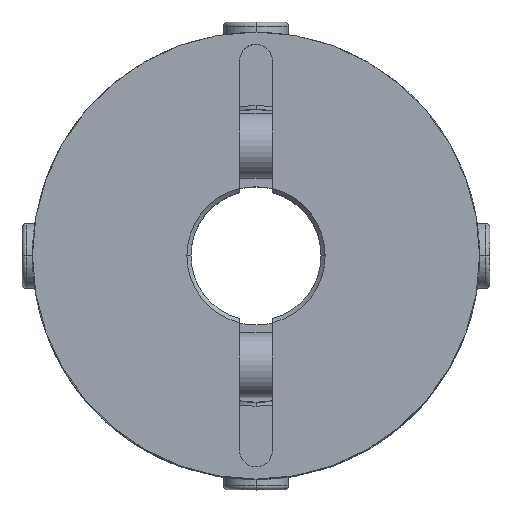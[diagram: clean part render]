
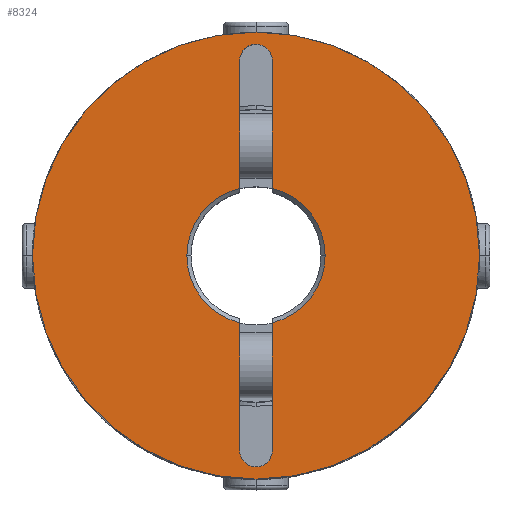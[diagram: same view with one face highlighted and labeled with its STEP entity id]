
A CAD part, top view. The second image highlights one B-rep face of the part: STEP entity #8324.
In plain terms, the highlighted planar face has unit normal (0, 0, 1).
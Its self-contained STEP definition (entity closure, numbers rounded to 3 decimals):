
#632=CARTESIAN_POINT('',(8.5,0.,29.0));
#633=VERTEX_POINT('',#632);
#649=CARTESIAN_POINT('',(2.,-8.261,29.0));
#650=VERTEX_POINT('',#649);
#664=CARTESIAN_POINT('',(0.,0.0,29.0));
#665=DIRECTION('',(0.0,0.0,1.0));
#666=DIRECTION('',(-1.0,0.0,0.0));
#667=AXIS2_PLACEMENT_3D('',#664,#665,#666);
#668=CIRCLE('',#667,8.5);
#669=EDGE_CURVE('',#650,#633,#668,.T.);
#831=CARTESIAN_POINT('',(-8.5,0.,29.0));
#832=VERTEX_POINT('',#831);
#839=CARTESIAN_POINT('',(-2.,-8.261,29.0));
#840=VERTEX_POINT('',#839);
#841=CARTESIAN_POINT('',(0.,0.0,29.0));
#842=DIRECTION('',(0.0,0.0,1.0));
#843=DIRECTION('',(-1.0,0.0,0.0));
#844=AXIS2_PLACEMENT_3D('',#841,#842,#843);
#845=CIRCLE('',#844,8.5);
#846=EDGE_CURVE('',#832,#840,#845,.T.);
#872=CARTESIAN_POINT('',(-1.414,25.414,29.0));
#873=VERTEX_POINT('',#872);
#889=CARTESIAN_POINT('',(2.,24.,29.0));
#890=VERTEX_POINT('',#889);
#897=CARTESIAN_POINT('',(0.,24.,29.0));
#898=DIRECTION('',(0.0,0.0,1.));
#899=DIRECTION('',(0.707,0.707,0.0));
#900=AXIS2_PLACEMENT_3D('',#897,#898,#899);
#901=CIRCLE('',#900,2.);
#902=EDGE_CURVE('',#890,#873,#901,.T.);
#914=CARTESIAN_POINT('',(1.414,-25.414,29.0));
#915=VERTEX_POINT('',#914);
#931=CARTESIAN_POINT('',(-2.,-24.,29.0));
#932=VERTEX_POINT('',#931);
#939=CARTESIAN_POINT('',(0.,-24.,29.0));
#940=DIRECTION('',(0.0,0.0,1.0));
#941=DIRECTION('',(-0.707,-0.707,0.0));
#942=AXIS2_PLACEMENT_3D('',#939,#940,#941);
#943=CIRCLE('',#942,2.0);
#944=EDGE_CURVE('',#932,#915,#943,.T.);
#1499=CARTESIAN_POINT('',(-27.5,0.,29.0));
#1500=VERTEX_POINT('',#1499);
#1507=CARTESIAN_POINT('',(27.5,0.0,29.0));
#1508=VERTEX_POINT('',#1507);
#1509=CARTESIAN_POINT('',(0.,0.0,29.0));
#1510=DIRECTION('',(0.0,0.0,-1.0));
#1511=DIRECTION('',(1.0,0.0,0.0));
#1512=AXIS2_PLACEMENT_3D('',#1509,#1510,#1511);
#1513=CIRCLE('',#1512,27.5);
#1514=EDGE_CURVE('',#1500,#1508,#1513,.T.);
#7525=CARTESIAN_POINT('',(0.,0.0,29.0));
#7526=DIRECTION('',(0.0,0.0,-1.0));
#7527=DIRECTION('',(1.0,0.0,0.0));
#7528=AXIS2_PLACEMENT_3D('',#7525,#7526,#7527);
#7529=CIRCLE('',#7528,27.5);
#7530=EDGE_CURVE('',#1508,#1500,#7529,.T.);
#8083=CARTESIAN_POINT('',(2.,-24.,29.0));
#8084=VERTEX_POINT('',#8083);
#8085=CARTESIAN_POINT('',(0.,-24.,29.0));
#8086=DIRECTION('',(0.0,0.0,1.0));
#8087=DIRECTION('',(-0.707,-0.707,0.0));
#8088=AXIS2_PLACEMENT_3D('',#8085,#8086,#8087);
#8089=CIRCLE('',#8088,2.0);
#8090=EDGE_CURVE('',#915,#8084,#8089,.T.);
#8108=CARTESIAN_POINT('',(2.,-8.261,29.0));
#8109=DIRECTION('',(0.0,-1.0,0.0));
#8110=VECTOR('',#8109,15.739);
#8111=LINE('',#8108,#8110);
#8112=EDGE_CURVE('',#650,#8084,#8111,.T.);
#8131=CARTESIAN_POINT('',(-2.,24.,29.0));
#8132=VERTEX_POINT('',#8131);
#8133=CARTESIAN_POINT('',(0.,24.,29.0));
#8134=DIRECTION('',(0.0,0.0,1.));
#8135=DIRECTION('',(0.707,0.707,0.0));
#8136=AXIS2_PLACEMENT_3D('',#8133,#8134,#8135);
#8137=CIRCLE('',#8136,2.);
#8138=EDGE_CURVE('',#873,#8132,#8137,.T.);
#8156=CARTESIAN_POINT('',(-2.,8.261,29.0));
#8157=VERTEX_POINT('',#8156);
#8158=CARTESIAN_POINT('',(-2.,8.261,29.0));
#8159=DIRECTION('',(0.0,1.0,0.0));
#8160=VECTOR('',#8159,15.739);
#8161=LINE('',#8158,#8160);
#8162=EDGE_CURVE('',#8157,#8132,#8161,.T.);
#8238=CARTESIAN_POINT('',(2.,8.261,29.0));
#8239=VERTEX_POINT('',#8238);
#8253=CARTESIAN_POINT('',(2.,24.,29.0));
#8254=DIRECTION('',(0.0,-1.0,0.0));
#8255=VECTOR('',#8254,15.739);
#8256=LINE('',#8253,#8255);
#8257=EDGE_CURVE('',#890,#8239,#8256,.T.);
#8276=CARTESIAN_POINT('',(-2.,-24.,29.0));
#8277=DIRECTION('',(0.0,1.0,0.0));
#8278=VECTOR('',#8277,15.739);
#8279=LINE('',#8276,#8278);
#8280=EDGE_CURVE('',#932,#840,#8279,.T.);
#8289=CARTESIAN_POINT('',(2.5,0.,29.0));
#8290=DIRECTION('',(0.0,0.0,1.0));
#8291=DIRECTION('',(1.0,0.0,0.0));
#8292=AXIS2_PLACEMENT_3D('',#8289,#8290,#8291);
#8293=PLANE('',#8292);
#8294=ORIENTED_EDGE('',*,*,#7530,.F.);
#8295=ORIENTED_EDGE('',*,*,#1514,.F.);
#8296=EDGE_LOOP('',(#8294,#8295));
#8297=FACE_OUTER_BOUND('',#8296,.T.);
#8298=ORIENTED_EDGE('',*,*,#8112,.T.);
#8299=ORIENTED_EDGE('',*,*,#8090,.F.);
#8300=ORIENTED_EDGE('',*,*,#944,.F.);
#8301=ORIENTED_EDGE('',*,*,#8280,.T.);
#8302=ORIENTED_EDGE('',*,*,#846,.F.);
#8303=CARTESIAN_POINT('',(0.,0.0,29.0));
#8304=DIRECTION('',(0.0,0.0,1.0));
#8305=DIRECTION('',(-1.0,0.0,0.0));
#8306=AXIS2_PLACEMENT_3D('',#8303,#8304,#8305);
#8307=CIRCLE('',#8306,8.5);
#8308=EDGE_CURVE('',#8157,#832,#8307,.T.);
#8309=ORIENTED_EDGE('',*,*,#8308,.F.);
#8310=ORIENTED_EDGE('',*,*,#8162,.T.);
#8311=ORIENTED_EDGE('',*,*,#8138,.F.);
#8312=ORIENTED_EDGE('',*,*,#902,.F.);
#8313=ORIENTED_EDGE('',*,*,#8257,.T.);
#8314=CARTESIAN_POINT('',(0.,0.0,29.0));
#8315=DIRECTION('',(0.0,0.0,1.0));
#8316=DIRECTION('',(-1.0,0.0,0.0));
#8317=AXIS2_PLACEMENT_3D('',#8314,#8315,#8316);
#8318=CIRCLE('',#8317,8.5);
#8319=EDGE_CURVE('',#633,#8239,#8318,.T.);
#8320=ORIENTED_EDGE('',*,*,#8319,.F.);
#8321=ORIENTED_EDGE('',*,*,#669,.F.);
#8322=EDGE_LOOP('',(#8298,#8299,#8300,#8301,#8302,#8309,#8310,#8311,#8312,#8313,#8320,#8321));
#8323=FACE_BOUND('',#8322,.T.);
#8324=ADVANCED_FACE('',(#8297,#8323),#8293,.T.);
